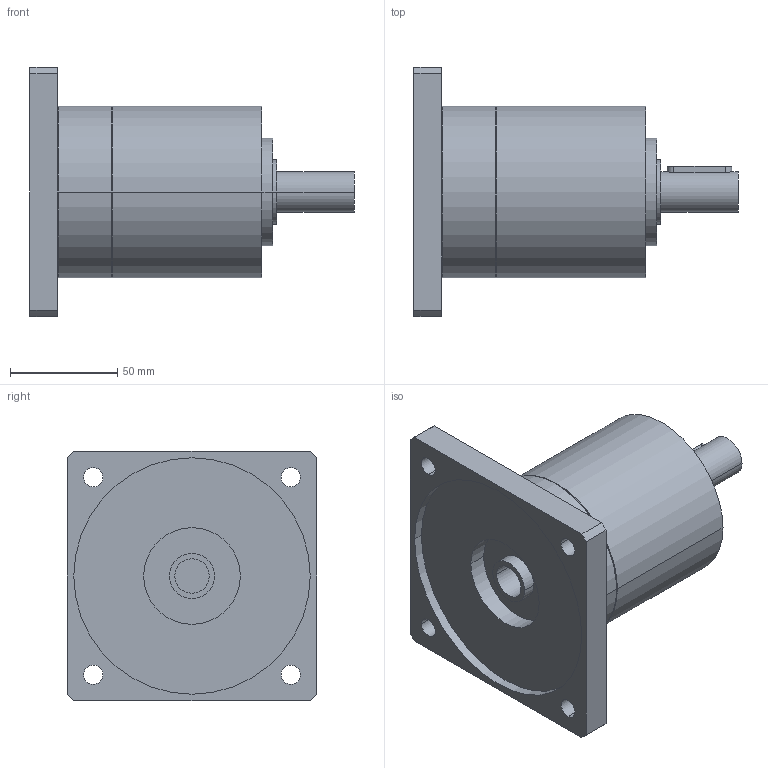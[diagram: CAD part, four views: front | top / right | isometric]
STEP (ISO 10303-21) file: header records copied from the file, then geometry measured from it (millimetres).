
FILE_DESCRIPTION(('CoCreate Modeling STEP Export'),'2;1');
FILE_NAME('GPR100_ig-3-4-5-6_19_B14_16_P08.stp','2014-08-26T10:08:07',(''),(''),'CoCreate Modeling STEP processor for AP214 (Solid Model)','CoCreate Modeling 16.00C 25-Feb-2009 (C) Parametric Technology GmbH','');
FILE_SCHEMA(('AUTOMOTIVE_DESIGN { 1 0 10303 214 1 1 1 1 }'));
Length unit declared in the file: millimetre
Products named in the file (2): GPR100_ig-3-4-5-6_19_B14_16_P08
Assembly tree (1 placements, depth 2):
  GPR100_ig-3-4-5-6_19_B14_16_P08
    GPR100_ig-3-4-5-6_19_B14_16_P08
Bounding box: 151 x 116 x 116 mm (x, y, z)
Volume: 607197.5 mm3; surface area: 67710.5 mm2
Topology: 1 solids, 1 shells, 70 faces, 189 edges, 133 vertices
Faces by surface type: cylinder 42, plane 22, cone 6
Entity records: 1944 total; most frequent: ORIENTED_EDGE 374, CARTESIAN_POINT 361, DIRECTION 262, EDGE_CURVE 187, VERTEX_POINT 133, AXIS2_PLACEMENT_3D 98, EDGE_LOOP 92, FACE_OUTER_BOUND 70
